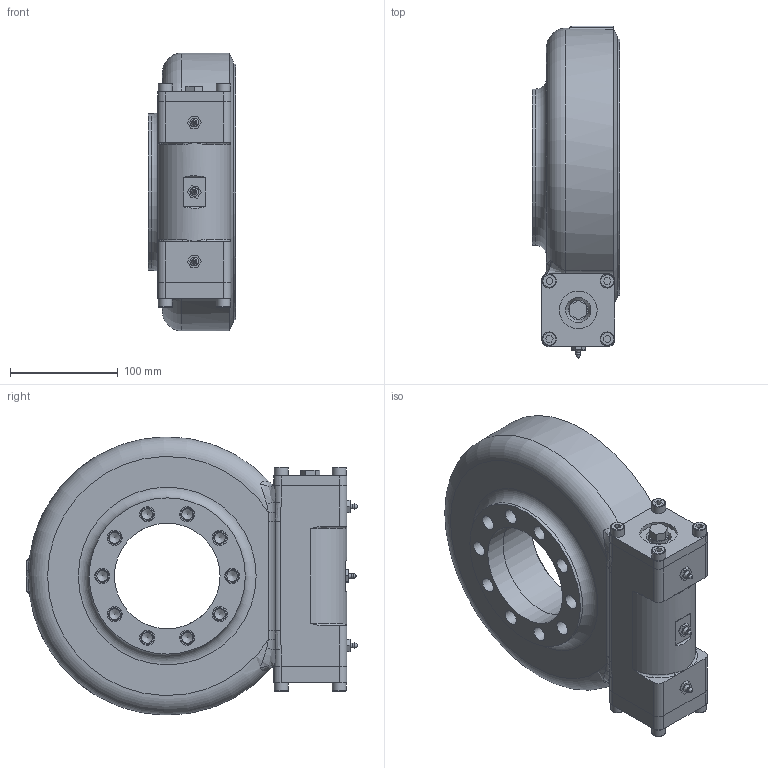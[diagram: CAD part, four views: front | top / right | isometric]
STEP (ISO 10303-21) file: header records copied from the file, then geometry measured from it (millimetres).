
FILE_DESCRIPTION (( 'STEP AP214' ), '1' );
FILE_NAME ('FGE7-73M-16H-R-REV.A.STEP', '2024-04-01T02:40:50', ( '' ), ( '' ), 'SwSTEP 2.0', 'SolidWorks 2018', '' );
FILE_SCHEMA (( 'AUTOMOTIVE_DESIGN' ));
Length unit declared in the file: millimetre
Products named in the file (1): FGE7-73M-16H-R-REV.A
Bounding box: 80.8 x 308 x 257.94 mm (x, y, z)
Volume: 2655175.4 mm3; surface area: 525726.7 mm2
Topology: 24 solids, 24 shells, 592 faces, 1307 edges, 832 vertices
Faces by surface type: plane 300, cylinder 184, cone 60, torus 27, bspline 18, sphere 3
Full cylindrical faces by diameter (mm): 6.8 x8, 7 x14, 8 x15, 8.5 x1, 9 x2, 10 x9, 10.2 x18, 11 x3, 12 x18, 13 x10, 14 x13, 15 x1, 18 x1, 20 x1, 22 x1, 25 x3, 31.5 x1, 32 x2, 35 x1, 46 x1, 52 x4, 58.3 x1, 65.3 x1, 98 x2, 145 x1, 145.35 x1, 161 x1, 163 x5, 237.5 x2, 244 x1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
Entity records: 23414 total; most frequent: CARTESIAN_POINT 4537, DIRECTION 2574, ORIENTED_EDGE 2038, AXIS2_PLACEMENT_3D 1054, EDGE_CURVE 1019, EDGE_LOOP 960, VERTEX_POINT 771, FACE_OUTER_BOUND 753
